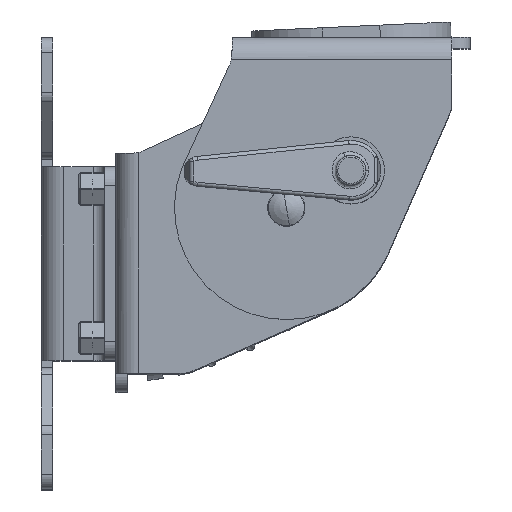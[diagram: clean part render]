
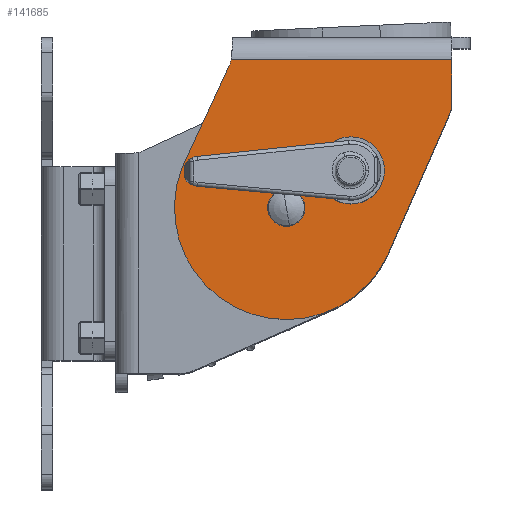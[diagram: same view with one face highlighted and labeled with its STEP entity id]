
A CAD part, top view. The second image highlights one B-rep face of the part: STEP entity #141685.
In plain terms, the highlighted planar face has unit normal (0, 0, 1) as drawn and (1, 0, 0) by its records, which use the part's own axes.
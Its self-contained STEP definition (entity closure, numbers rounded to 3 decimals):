
#380 = PLANE ( 'NONE',  #12559 ) ;
#5953 = LINE ( 'NONE', #38707, #35766 ) ;
#6952 = EDGE_LOOP ( 'NONE', ( #209264, #25914, #230561, #208697 ) ) ;
#8556 = EDGE_CURVE ( 'NONE', #44813, #111702, #200885, .T. ) ;
#8951 = AXIS2_PLACEMENT_3D ( 'NONE', #11792, #183953, #226524 ) ;
#11792 = CARTESIAN_POINT ( 'NONE',  ( 981.936, 484.708, -4.093 ) ) ;
#12559 = AXIS2_PLACEMENT_3D ( 'NONE', #212457, #62516, #145848 ) ;
#14149 = EDGE_CURVE ( 'NONE', #250522, #145385, #97853, .T. ) ;
#14392 = DIRECTION ( 'NONE',  ( 1., 0., 0. ) ) ;
#17607 = EDGE_CURVE ( 'NONE', #37451, #21975, #117520, .T. ) ;
#21975 = VERTEX_POINT ( 'NONE', #266263 ) ;
#23590 = VERTEX_POINT ( 'NONE', #205155 ) ;
#25914 = ORIENTED_EDGE ( 'NONE', *, *, #44819, .F. ) ;
#30690 = CARTESIAN_POINT ( 'NONE',  ( 981.936, 551.033, -20.661 ) ) ;
#32987 = LINE ( 'NONE', #47329, #128922 ) ;
#35766 = VECTOR ( 'NONE', #37787, 1000. ) ;
#37320 = CIRCLE ( 'NONE', #84394, 8.1 ) ;
#37451 = VERTEX_POINT ( 'NONE', #223209 ) ;
#37787 = DIRECTION ( 'NONE',  ( 0., 0., -1. ) ) ;
#38707 = CARTESIAN_POINT ( 'NONE',  ( 981.936, 504.084, -48.901 ) ) ;
#41302 = CARTESIAN_POINT ( 'NONE',  ( 981.936, 491.973, -7.442 ) ) ;
#42751 = ORIENTED_EDGE ( 'NONE', *, *, #232576, .T. ) ;
#42780 = DIRECTION ( 'NONE',  ( 0., 0., -1. ) ) ;
#43903 = LINE ( 'NONE', #230821, #246079 ) ;
#44011 = DIRECTION ( 'NONE',  ( 0., -0.419, -0.908 ) ) ;
#44813 = VERTEX_POINT ( 'NONE', #261114 ) ;
#44819 = EDGE_CURVE ( 'NONE', #68533, #190851, #32987, .T. ) ;
#47329 = CARTESIAN_POINT ( 'NONE',  ( 981.936, 510.484, -42.501 ) ) ;
#50079 = DIRECTION ( 'NONE',  ( 0., 0., -1. ) ) ;
#52588 = ORIENTED_EDGE ( 'NONE', *, *, #154519, .F. ) ;
#52687 = VECTOR ( 'NONE', #44011, 1000. ) ;
#52780 = EDGE_LOOP ( 'NONE', ( #198631, #193036 ) ) ;
#55566 = AXIS2_PLACEMENT_3D ( 'NONE', #241705, #221335, #50079 ) ;
#56101 = CIRCLE ( 'NONE', #167228, 30. ) ;
#57509 = CARTESIAN_POINT ( 'NONE',  ( 981.936, 543.708, -17.446 ) ) ;
#59866 = EDGE_CURVE ( 'NONE', #194641, #134611, #56101, .T. ) ;
#61021 = ORIENTED_EDGE ( 'NONE', *, *, #171377, .T. ) ;
#62516 = DIRECTION ( 'NONE',  ( 1., 0., 0. ) ) ;
#63077 = FACE_OUTER_BOUND ( 'NONE', #258854, .T. ) ;
#64652 = CARTESIAN_POINT ( 'NONE',  ( 981.936, 479.201, -35.149 ) ) ;
#64988 = DIRECTION ( 'NONE',  ( 1., 0., 0. ) ) ;
#68533 = VERTEX_POINT ( 'NONE', #155422 ) ;
#69059 = CIRCLE ( 'NONE', #55566, 8.1 ) ;
#78436 = CARTESIAN_POINT ( 'NONE',  ( 981.936, 504.084, -42.501 ) ) ;
#84394 = AXIS2_PLACEMENT_3D ( 'NONE', #262370, #224371, #94829 ) ;
#94598 = CARTESIAN_POINT ( 'NONE',  ( 981.936, 534.605, -58.093 ) ) ;
#94829 = DIRECTION ( 'NONE',  ( 0., 0., -1. ) ) ;
#97853 = LINE ( 'NONE', #30690, #157320 ) ;
#99474 = FACE_BOUND ( 'NONE', #52780, .T. ) ;
#104043 = DIRECTION ( 'NONE',  ( 0., 1., 0. ) ) ;
#106236 = CARTESIAN_POINT ( 'NONE',  ( 981.936, 504.084, -42.501 ) ) ;
#109531 = CIRCLE ( 'NONE', #194997, 8. ) ;
#111702 = VERTEX_POINT ( 'NONE', #165003 ) ;
#117520 = LINE ( 'NONE', #139146, #196872 ) ;
#118692 = CARTESIAN_POINT ( 'NONE',  ( 981.936, 524.604, -43.801 ) ) ;
#118795 = VERTEX_POINT ( 'NONE', #78436 ) ;
#119137 = CIRCLE ( 'NONE', #184061, 30. ) ;
#123604 = CARTESIAN_POINT ( 'NONE',  ( 981.936, 504.084, -48.901 ) ) ;
#128922 = VECTOR ( 'NONE', #135251, 1000. ) ;
#130984 = CARTESIAN_POINT ( 'NONE',  ( 981.936, 551.033, -20.661 ) ) ;
#132118 = DIRECTION ( 'NONE',  ( 0., -1., 0. ) ) ;
#132502 = EDGE_CURVE ( 'NONE', #234402, #68533, #43903, .T. ) ;
#134611 = VERTEX_POINT ( 'NONE', #241936 ) ;
#135251 = DIRECTION ( 'NONE',  ( 0., 0., 1. ) ) ;
#139146 = CARTESIAN_POINT ( 'NONE',  ( 981.936, 551.708, -17.446 ) ) ;
#141685 = ADVANCED_FACE ( 'NONE', ( #63077, #202258, #99474 ), #380, .T. ) ;
#145385 = VERTEX_POINT ( 'NONE', #130984 ) ;
#145848 = DIRECTION ( 'NONE',  ( 0., 0., -1. ) ) ;
#150747 = EDGE_CURVE ( 'NONE', #224080, #23590, #69059, .T. ) ;
#151319 = ORIENTED_EDGE ( 'NONE', *, *, #8556, .T. ) ;
#151776 = ORIENTED_EDGE ( 'NONE', *, *, #175413, .T. ) ;
#152351 = CARTESIAN_POINT ( 'NONE',  ( 981.936, 551.708, -6. ) ) ;
#154519 = EDGE_CURVE ( 'NONE', #44813, #21975, #163717, .T. ) ;
#155422 = CARTESIAN_POINT ( 'NONE',  ( 981.936, 510.484, -48.901 ) ) ;
#157067 = VECTOR ( 'NONE', #175469, 1000. ) ;
#157320 = VECTOR ( 'NONE', #261196, 1000. ) ;
#159827 = CARTESIAN_POINT ( 'NONE',  ( 981.936, 507.284, -45.701 ) ) ;
#161894 = LINE ( 'NONE', #41302, #52687 ) ;
#163717 = LINE ( 'NONE', #152351, #157067 ) ;
#165003 = CARTESIAN_POINT ( 'NONE',  ( 981.936, 491.973, -7.442 ) ) ;
#167228 = AXIS2_PLACEMENT_3D ( 'NONE', #159827, #14392, #247688 ) ;
#171377 = EDGE_CURVE ( 'NONE', #134611, #250522, #119137, .T. ) ;
#175413 = EDGE_CURVE ( 'NONE', #111702, #194641, #161894, .T. ) ;
#175469 = DIRECTION ( 'NONE',  ( 0., 1., 0. ) ) ;
#180086 = ORIENTED_EDGE ( 'NONE', *, *, #17607, .T. ) ;
#183165 = ORIENTED_EDGE ( 'NONE', *, *, #59866, .T. ) ;
#183953 = DIRECTION ( 'NONE',  ( -1., 0., 0. ) ) ;
#184061 = AXIS2_PLACEMENT_3D ( 'NONE', #257488, #64988, #42780 ) ;
#186225 = DIRECTION ( 'NONE',  ( 0., 0., 1. ) ) ;
#190365 = CARTESIAN_POINT ( 'NONE',  ( 981.936, 510.484, -42.501 ) ) ;
#190851 = VERTEX_POINT ( 'NONE', #190365 ) ;
#193036 = ORIENTED_EDGE ( 'NONE', *, *, #202215, .F. ) ;
#194641 = VERTEX_POINT ( 'NONE', #64652 ) ;
#194997 = AXIS2_PLACEMENT_3D ( 'NONE', #57509, #231457, #252742 ) ;
#195788 = EDGE_CURVE ( 'NONE', #190851, #118795, #239707, .T. ) ;
#196872 = VECTOR ( 'NONE', #186225, 1000. ) ;
#198631 = ORIENTED_EDGE ( 'NONE', *, *, #150747, .F. ) ;
#200885 = CIRCLE ( 'NONE', #8951, 8. ) ;
#202215 = EDGE_CURVE ( 'NONE', #23590, #224080, #37320, .T. ) ;
#202258 = FACE_BOUND ( 'NONE', #6952, .T. ) ;
#205155 = CARTESIAN_POINT ( 'NONE',  ( 981.936, 524.604, -27.601 ) ) ;
#208697 = ORIENTED_EDGE ( 'NONE', *, *, #253673, .F. ) ;
#209264 = ORIENTED_EDGE ( 'NONE', *, *, #195788, .F. ) ;
#212457 = CARTESIAN_POINT ( 'NONE',  ( 981.936, 551.708, 125.501 ) ) ;
#221335 = DIRECTION ( 'NONE',  ( 1., 0., 0. ) ) ;
#223209 = CARTESIAN_POINT ( 'NONE',  ( 981.936, 551.708, -17.446 ) ) ;
#224080 = VERTEX_POINT ( 'NONE', #118692 ) ;
#224371 = DIRECTION ( 'NONE',  ( 1., 0., 0. ) ) ;
#226524 = DIRECTION ( 'NONE',  ( 0., 0., -1. ) ) ;
#230561 = ORIENTED_EDGE ( 'NONE', *, *, #132502, .F. ) ;
#230821 = CARTESIAN_POINT ( 'NONE',  ( 981.936, 510.484, -48.901 ) ) ;
#231457 = DIRECTION ( 'NONE',  ( 1., 0., 0. ) ) ;
#232576 = EDGE_CURVE ( 'NONE', #145385, #37451, #109531, .T. ) ;
#234402 = VERTEX_POINT ( 'NONE', #123604 ) ;
#239707 = LINE ( 'NONE', #106236, #256462 ) ;
#241705 = CARTESIAN_POINT ( 'NONE',  ( 981.936, 524.604, -35.701 ) ) ;
#241936 = CARTESIAN_POINT ( 'NONE',  ( 981.936, 507.284, -75.701 ) ) ;
#246079 = VECTOR ( 'NONE', #104043, 1000. ) ;
#247688 = DIRECTION ( 'NONE',  ( 0., 0., -1. ) ) ;
#250522 = VERTEX_POINT ( 'NONE', #94598 ) ;
#252742 = DIRECTION ( 'NONE',  ( 0., 0., -1. ) ) ;
#253673 = EDGE_CURVE ( 'NONE', #118795, #234402, #5953, .T. ) ;
#256462 = VECTOR ( 'NONE', #132118, 1000. ) ;
#257488 = CARTESIAN_POINT ( 'NONE',  ( 981.936, 507.284, -45.701 ) ) ;
#258854 = EDGE_LOOP ( 'NONE', ( #52588, #151319, #151776, #183165, #61021, #265707, #42751, #180086 ) ) ;
#261114 = CARTESIAN_POINT ( 'NONE',  ( 981.936, 492.477, -6. ) ) ;
#261196 = DIRECTION ( 'NONE',  ( 0., 0.402, 0.916 ) ) ;
#262370 = CARTESIAN_POINT ( 'NONE',  ( 981.936, 524.604, -35.701 ) ) ;
#265707 = ORIENTED_EDGE ( 'NONE', *, *, #14149, .T. ) ;
#266263 = CARTESIAN_POINT ( 'NONE',  ( 981.936, 551.708, -6. ) ) ;
